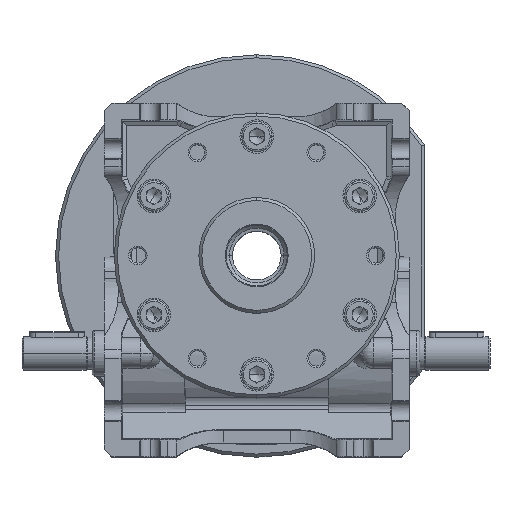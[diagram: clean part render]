
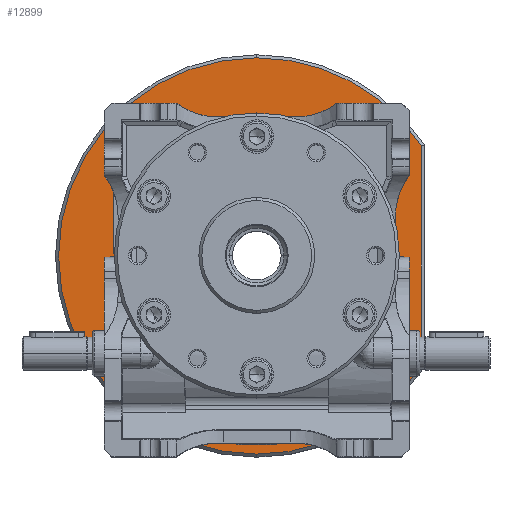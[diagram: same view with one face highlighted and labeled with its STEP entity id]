
A CAD part, top view. The second image highlights one B-rep face of the part: STEP entity #12899.
In plain terms, the highlighted planar face has unit normal (0, 0, 1).
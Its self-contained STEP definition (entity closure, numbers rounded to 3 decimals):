
#424 = DIRECTION ( 'NONE',  ( 0., 1., 0. ) ) ;
#1112 = CARTESIAN_POINT ( 'NONE',  ( 40.659, -40.659, -49. ) ) ;
#1222 = DIRECTION ( 'NONE',  ( 0., -1., 0. ) ) ;
#2042 = VERTEX_POINT ( 'NONE', #69941 ) ;
#3682 = FACE_BOUND ( 'NONE', #13519, .T. ) ;
#4656 = DIRECTION ( 'NONE',  ( 0., 0., -1. ) ) ;
#4809 = CARTESIAN_POINT ( 'NONE',  ( -40.659, 36.159, -49. ) ) ;
#5362 = VECTOR ( 'NONE', #37539, 1000. ) ;
#5384 = ORIENTED_EDGE ( 'NONE', *, *, #73540, .T. ) ;
#5957 = AXIS2_PLACEMENT_3D ( 'NONE', #17158, #41548, #23563 ) ;
#6039 = CARTESIAN_POINT ( 'NONE',  ( 0., 0., -49. ) ) ;
#7626 = CIRCLE ( 'NONE', #38258, 65. ) ;
#8245 = DIRECTION ( 'NONE',  ( 0., 0., -1. ) ) ;
#8655 = EDGE_LOOP ( 'NONE', ( #39052, #78284 ) ) ;
#8913 = FACE_OUTER_BOUND ( 'NONE', #57127, .T. ) ;
#9331 = PLANE ( 'NONE',  #79005 ) ;
#10536 = EDGE_CURVE ( 'NONE', #68864, #78206, #43271, .T. ) ;
#10688 = EDGE_LOOP ( 'NONE', ( #63016, #5384 ) ) ;
#12899 = ADVANCED_FACE ( 'NONE', ( #40088, #8913, #34467, #3682, #76877, #22091 ), #9331, .F. ) ;
#12952 = AXIS2_PLACEMENT_3D ( 'NONE', #53506, #35507, #59513 ) ;
#13388 = ORIENTED_EDGE ( 'NONE', *, *, #29957, .T. ) ;
#13519 = EDGE_LOOP ( 'NONE', ( #53663, #71235 ) ) ;
#13896 = DIRECTION ( 'NONE',  ( 0., 0., 1. ) ) ;
#14162 = CARTESIAN_POINT ( 'NONE',  ( 0., 0., -49. ) ) ;
#15346 = CIRCLE ( 'NONE', #60062, 4.5 ) ;
#15374 = VERTEX_POINT ( 'NONE', #70565 ) ;
#16641 = CARTESIAN_POINT ( 'NONE',  ( -40.659, -40.659, -49. ) ) ;
#17158 = CARTESIAN_POINT ( 'NONE',  ( 40.659, 40.659, -49. ) ) ;
#18667 = DIRECTION ( 'NONE',  ( 0., -1., 0. ) ) ;
#18861 = ORIENTED_EDGE ( 'NONE', *, *, #54656, .T. ) ;
#19685 = CARTESIAN_POINT ( 'NONE',  ( 0., 65., -49. ) ) ;
#21105 = ORIENTED_EDGE ( 'NONE', *, *, #57707, .T. ) ;
#21637 = ORIENTED_EDGE ( 'NONE', *, *, #62822, .T. ) ;
#22091 = FACE_BOUND ( 'NONE', #10688, .T. ) ;
#23143 = CARTESIAN_POINT ( 'NONE',  ( 40.659, 40.659, -49. ) ) ;
#23563 = DIRECTION ( 'NONE',  ( 0., -1., 0. ) ) ;
#23675 = DIRECTION ( 'NONE',  ( 0., 0., -1. ) ) ;
#24075 = EDGE_LOOP ( 'NONE', ( #55711, #21105 ) ) ;
#24694 = VERTEX_POINT ( 'NONE', #63179 ) ;
#25915 = DIRECTION ( 'NONE',  ( 0., -1., 0. ) ) ;
#27083 = AXIS2_PLACEMENT_3D ( 'NONE', #31611, #56019, #1222 ) ;
#27101 = DIRECTION ( 'NONE',  ( 0., 0., -1. ) ) ;
#27351 = EDGE_CURVE ( 'NONE', #50638, #38389, #15346, .T. ) ;
#27543 = DIRECTION ( 'NONE',  ( 0., -1., 0. ) ) ;
#28121 = CIRCLE ( 'NONE', #58780, 4.5 ) ;
#28866 = EDGE_CURVE ( 'NONE', #30946, #24694, #65354, .T. ) ;
#28900 = CARTESIAN_POINT ( 'NONE',  ( 40.659, 36.159, -49. ) ) ;
#29957 = EDGE_CURVE ( 'NONE', #64802, #2042, #55169, .T. ) ;
#30946 = VERTEX_POINT ( 'NONE', #4809 ) ;
#31220 = CARTESIAN_POINT ( 'NONE',  ( 0., -45.75, -49. ) ) ;
#31421 = CARTESIAN_POINT ( 'NONE',  ( 0., 0., -49. ) ) ;
#31500 = DIRECTION ( 'NONE',  ( 0., 0., -1. ) ) ;
#31611 = CARTESIAN_POINT ( 'NONE',  ( -40.659, -40.659, -49. ) ) ;
#33156 = CARTESIAN_POINT ( 'NONE',  ( 40.659, -36.159, -49. ) ) ;
#33928 = EDGE_LOOP ( 'NONE', ( #40427, #38106 ) ) ;
#34467 = FACE_BOUND ( 'NONE', #33928, .T. ) ;
#35507 = DIRECTION ( 'NONE',  ( 0., 0., -1. ) ) ;
#36988 = VERTEX_POINT ( 'NONE', #19685 ) ;
#37403 = EDGE_CURVE ( 'NONE', #15374, #54755, #28121, .T. ) ;
#37539 = DIRECTION ( 'NONE',  ( 0., 1., 0. ) ) ;
#38106 = ORIENTED_EDGE ( 'NONE', *, *, #64936, .T. ) ;
#38258 = AXIS2_PLACEMENT_3D ( 'NONE', #68674, #13896, #72047 ) ;
#38389 = VERTEX_POINT ( 'NONE', #33156 ) ;
#38796 = CARTESIAN_POINT ( 'NONE',  ( 40.659, -45.159, -49. ) ) ;
#39052 = ORIENTED_EDGE ( 'NONE', *, *, #58623, .T. ) ;
#39965 = DIRECTION ( 'NONE',  ( 0., 0., -1. ) ) ;
#40088 = FACE_BOUND ( 'NONE', #8655, .T. ) ;
#40144 = DIRECTION ( 'NONE',  ( 0., -1., 0. ) ) ;
#40199 = EDGE_CURVE ( 'NONE', #47085, #41412, #54122, .T. ) ;
#40427 = ORIENTED_EDGE ( 'NONE', *, *, #28866, .T. ) ;
#41412 = VERTEX_POINT ( 'NONE', #68113 ) ;
#41548 = DIRECTION ( 'NONE',  ( 0., 0., -1. ) ) ;
#41671 = DIRECTION ( 'NONE',  ( 0., -1., 0. ) ) ;
#42021 = AXIS2_PLACEMENT_3D ( 'NONE', #23143, #39965, #27543 ) ;
#43253 = CIRCLE ( 'NONE', #59831, 65. ) ;
#43271 = CIRCLE ( 'NONE', #42021, 4.5 ) ;
#43433 = DIRECTION ( 'NONE',  ( 0., 1., 0. ) ) ;
#44228 = CIRCLE ( 'NONE', #5957, 4.5 ) ;
#46091 = CIRCLE ( 'NONE', #55062, 4.5 ) ;
#46483 = DIRECTION ( 'NONE',  ( 0., 0., -1. ) ) ;
#47085 = VERTEX_POINT ( 'NONE', #31220 ) ;
#47843 = EDGE_CURVE ( 'NONE', #69153, #64802, #43253, .T. ) ;
#48472 = ORIENTED_EDGE ( 'NONE', *, *, #47843, .T. ) ;
#49325 = CARTESIAN_POINT ( 'NONE',  ( 54., -36.18, -49. ) ) ;
#50216 = CARTESIAN_POINT ( 'NONE',  ( 0., 0., -49. ) ) ;
#50638 = VERTEX_POINT ( 'NONE', #38796 ) ;
#50917 = EDGE_CURVE ( 'NONE', #78206, #68864, #44228, .T. ) ;
#51347 = CIRCLE ( 'NONE', #60358, 45.75 ) ;
#52892 = CARTESIAN_POINT ( 'NONE',  ( -40.659, 40.659, -49. ) ) ;
#53506 = CARTESIAN_POINT ( 'NONE',  ( 40.659, -40.659, -49. ) ) ;
#53663 = ORIENTED_EDGE ( 'NONE', *, *, #10536, .T. ) ;
#54122 = CIRCLE ( 'NONE', #68144, 45.75 ) ;
#54239 = DIRECTION ( 'NONE',  ( 0., -1., 0. ) ) ;
#54656 = EDGE_CURVE ( 'NONE', #36988, #69153, #62495, .T. ) ;
#54755 = VERTEX_POINT ( 'NONE', #71713 ) ;
#55062 = AXIS2_PLACEMENT_3D ( 'NONE', #52892, #23675, #41671 ) ;
#55169 = LINE ( 'NONE', #67542, #5362 ) ;
#55711 = ORIENTED_EDGE ( 'NONE', *, *, #27351, .T. ) ;
#56019 = DIRECTION ( 'NONE',  ( 0., 0., -1. ) ) ;
#57127 = EDGE_LOOP ( 'NONE', ( #21637, #18861, #48472, #13388 ) ) ;
#57707 = EDGE_CURVE ( 'NONE', #38389, #50638, #72947, .T. ) ;
#58623 = EDGE_CURVE ( 'NONE', #41412, #47085, #51347, .T. ) ;
#58780 = AXIS2_PLACEMENT_3D ( 'NONE', #16641, #4656, #54239 ) ;
#59513 = DIRECTION ( 'NONE',  ( 0., -1., 0. ) ) ;
#59831 = AXIS2_PLACEMENT_3D ( 'NONE', #31421, #73449, #18667 ) ;
#60062 = AXIS2_PLACEMENT_3D ( 'NONE', #1112, #31500, #67147 ) ;
#60358 = AXIS2_PLACEMENT_3D ( 'NONE', #50216, #8245, #43433 ) ;
#62495 = CIRCLE ( 'NONE', #70146, 65. ) ;
#62822 = EDGE_CURVE ( 'NONE', #2042, #36988, #7626, .T. ) ;
#62832 = CIRCLE ( 'NONE', #27083, 4.5 ) ;
#63016 = ORIENTED_EDGE ( 'NONE', *, *, #37403, .T. ) ;
#63179 = CARTESIAN_POINT ( 'NONE',  ( -40.659, 45.159, -49. ) ) ;
#64035 = CARTESIAN_POINT ( 'NONE',  ( 0., -65., -49. ) ) ;
#64802 = VERTEX_POINT ( 'NONE', #49325 ) ;
#64936 = EDGE_CURVE ( 'NONE', #24694, #30946, #46091, .T. ) ;
#65312 = CARTESIAN_POINT ( 'NONE',  ( 40.659, 45.159, -49. ) ) ;
#65354 = CIRCLE ( 'NONE', #67925, 4.5 ) ;
#67147 = DIRECTION ( 'NONE',  ( 0., -1., 0. ) ) ;
#67542 = CARTESIAN_POINT ( 'NONE',  ( 54., 0., -49. ) ) ;
#67605 = DIRECTION ( 'NONE',  ( 0., 0., -1. ) ) ;
#67925 = AXIS2_PLACEMENT_3D ( 'NONE', #69095, #27101, #25915 ) ;
#68113 = CARTESIAN_POINT ( 'NONE',  ( 0., 45.75, -49. ) ) ;
#68144 = AXIS2_PLACEMENT_3D ( 'NONE', #6039, #67605, #424 ) ;
#68674 = CARTESIAN_POINT ( 'NONE',  ( 0., 0., -49. ) ) ;
#68864 = VERTEX_POINT ( 'NONE', #28900 ) ;
#69095 = CARTESIAN_POINT ( 'NONE',  ( -40.659, 40.659, -49. ) ) ;
#69153 = VERTEX_POINT ( 'NONE', #64035 ) ;
#69941 = CARTESIAN_POINT ( 'NONE',  ( 54., 36.18, -49. ) ) ;
#70146 = AXIS2_PLACEMENT_3D ( 'NONE', #14162, #75332, #40144 ) ;
#70565 = CARTESIAN_POINT ( 'NONE',  ( -40.659, -45.159, -49. ) ) ;
#70863 = DIRECTION ( 'NONE',  ( 0., -1., 0. ) ) ;
#71235 = ORIENTED_EDGE ( 'NONE', *, *, #50917, .T. ) ;
#71238 = CARTESIAN_POINT ( 'NONE',  ( -19., 0., -49. ) ) ;
#71713 = CARTESIAN_POINT ( 'NONE',  ( -40.659, -36.159, -49. ) ) ;
#72047 = DIRECTION ( 'NONE',  ( 0., -1., 0. ) ) ;
#72947 = CIRCLE ( 'NONE', #12952, 4.5 ) ;
#73449 = DIRECTION ( 'NONE',  ( 0., 0., 1. ) ) ;
#73540 = EDGE_CURVE ( 'NONE', #54755, #15374, #62832, .T. ) ;
#75332 = DIRECTION ( 'NONE',  ( 0., 0., 1. ) ) ;
#76877 = FACE_BOUND ( 'NONE', #24075, .T. ) ;
#78206 = VERTEX_POINT ( 'NONE', #65312 ) ;
#78284 = ORIENTED_EDGE ( 'NONE', *, *, #40199, .T. ) ;
#79005 = AXIS2_PLACEMENT_3D ( 'NONE', #71238, #46483, #70863 ) ;
